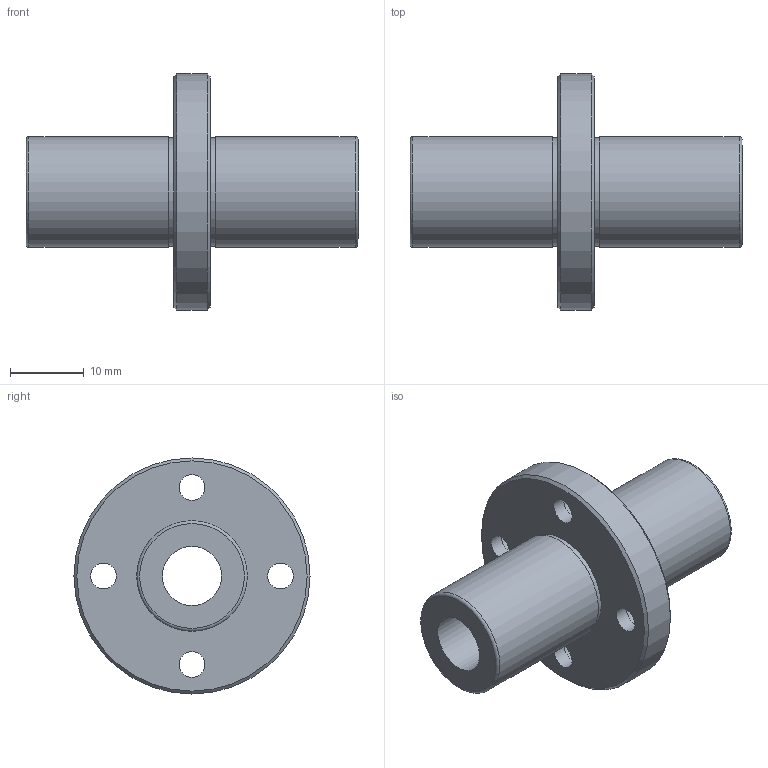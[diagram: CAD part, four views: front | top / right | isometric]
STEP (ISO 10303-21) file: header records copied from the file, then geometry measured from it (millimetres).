
FILE_DESCRIPTION(('STEP AP203'),'1');
FILE_NAME('//192.168.1.1/share/s-4 技術開発/s-4-4_CAD/s-4-4-3_見直し済み/002 修正済み/NFCD-VL/NFCD-VL_TOP/NFCD-8VLUU.step','2022-03-08T04:20:24',(' '),(' '),'Spatial InterOp 3D',' ',' ');
FILE_SCHEMA(('CONFIG_CONTROL_DESIGN'));
Length unit declared in the file: millimetre
Products named in the file (1): 1
Bounding box: 45 x 32 x 32 mm (x, y, z)
Volume: 8375.2 mm3; surface area: 5229.7 mm2
Topology: 1 solids, 1 shells, 28 faces, 57 edges, 39 vertices
Faces by surface type: cylinder 14, plane 10, cone 2, torus 2
Full cylindrical faces by diameter (mm): 3.5 x4, 6 x4, 8 x1, 14.7 x2, 15 x2, 32 x1
Entity records: 668 total; most frequent: DIRECTION 122, CARTESIAN_POINT 93, EDGE_LOOP 64, ORIENTED_EDGE 64, AXIS2_PLACEMENT_3D 61, FACE_OUTER_BOUND 44, EDGE_CURVE 32, VERTEX_POINT 32
